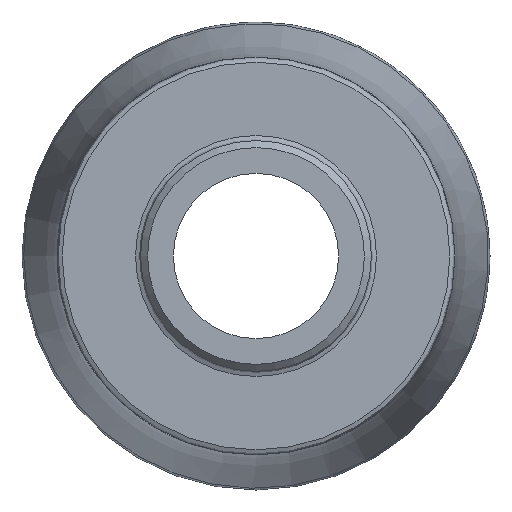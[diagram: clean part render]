
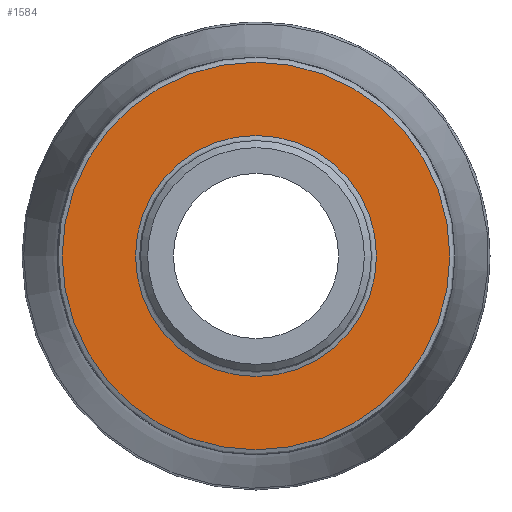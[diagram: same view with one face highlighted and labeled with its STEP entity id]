
A CAD part, left-side view. The second image highlights one B-rep face of the part: STEP entity #1584.
In plain terms, the highlighted planar face has unit normal (-1, 0, 0).
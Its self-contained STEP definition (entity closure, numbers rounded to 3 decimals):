
#262=PLANE('',#1742);
#356=FACE_BOUND('',#504,.T.);
#392=FACE_OUTER_BOUND('',#503,.T.);
#503=EDGE_LOOP('',(#1230));
#504=EDGE_LOOP('',(#1231));
#632=CIRCLE('',#1741,21.88);
#633=CIRCLE('',#1743,35.2);
#742=VERTEX_POINT('',#2861);
#743=VERTEX_POINT('',#2864);
#920=EDGE_CURVE('',#742,#742,#632,.T.);
#921=EDGE_CURVE('',#743,#743,#633,.T.);
#1230=ORIENTED_EDGE('',*,*,#921,.F.);
#1231=ORIENTED_EDGE('',*,*,#920,.F.);
#1584=ADVANCED_FACE('',(#392,#356),#262,.T.);
#1741=AXIS2_PLACEMENT_3D('',#2862,#2035,#2036);
#1742=AXIS2_PLACEMENT_3D('',#2863,#2037,#2038);
#1743=AXIS2_PLACEMENT_3D('',#2865,#2039,#2040);
#2035=DIRECTION('center_axis',(-1.,0.,0.));
#2036=DIRECTION('ref_axis',(0.,-1.,0.));
#2037=DIRECTION('center_axis',(-1.,0.,0.));
#2038=DIRECTION('ref_axis',(0.,0.,1.));
#2039=DIRECTION('center_axis',(1.,0.,0.));
#2040=DIRECTION('ref_axis',(0.,-1.,0.));
#2861=CARTESIAN_POINT('',(21.,21.88,0.));
#2862=CARTESIAN_POINT('Origin',(21.,0.,0.));
#2863=CARTESIAN_POINT('Origin',(21.,36.125,0.));
#2864=CARTESIAN_POINT('',(21.,35.2,0.));
#2865=CARTESIAN_POINT('Origin',(21.,0.,0.));
